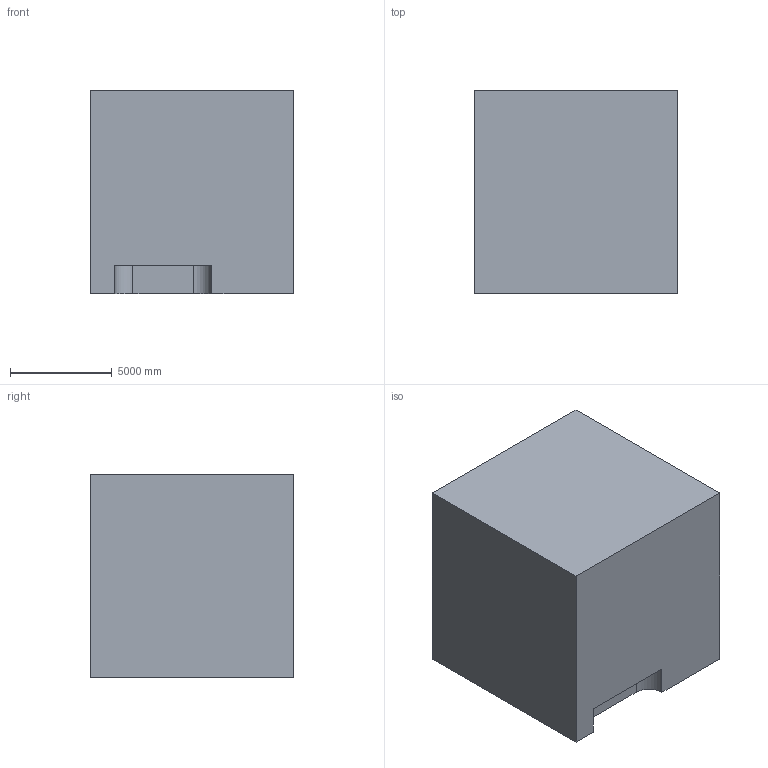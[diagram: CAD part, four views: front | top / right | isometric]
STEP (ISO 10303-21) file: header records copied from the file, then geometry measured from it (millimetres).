
FILE_DESCRIPTION (( 'STEP AP203' ), '1' );
FILE_NAME ('168.STEP', '2022-07-28T13:47:48', ( 'user' ), ( '' ), 'SwSTEP 2.0', 'SolidWorks 2021', '' );
FILE_SCHEMA (( 'CONFIG_CONTROL_DESIGN' ));
Length unit declared in the file: centimetre
Products named in the file (1): 168
Bounding box: 10000 x 10000 x 10000 mm (x, y, z)
Volume: 958889020484.3 mm3; surface area: 673291889.9 mm2
Topology: 1 solids, 1 shells, 15 faces, 36 edges, 24 vertices
Faces by surface type: plane 13, cylinder 2
Entity records: 511 total; most frequent: CARTESIAN_POINT 76, DIRECTION 72, ORIENTED_EDGE 72, EDGE_CURVE 36, VECTOR 32, LINE 32, VERTEX_POINT 24, AXIS2_PLACEMENT_3D 20
